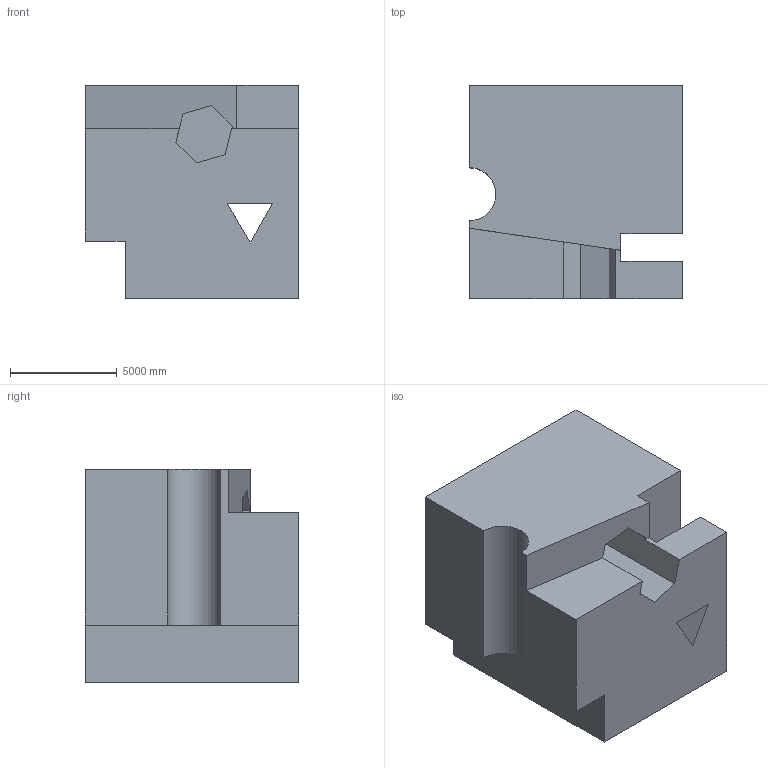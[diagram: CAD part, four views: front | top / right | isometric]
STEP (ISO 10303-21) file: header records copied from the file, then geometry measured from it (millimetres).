
FILE_DESCRIPTION (( 'STEP AP203' ), '1' );
FILE_NAME ('1591.STEP', '2022-08-18T16:00:39', ( 'user' ), ( '' ), 'SwSTEP 2.0', 'SolidWorks 2021', '' );
FILE_SCHEMA (( 'CONFIG_CONTROL_DESIGN' ));
Length unit declared in the file: centimetre
Products named in the file (1): 1591
Bounding box: 10000 x 10000 x 10000 mm (x, y, z)
Volume: 790087515078.1 mm3; surface area: 725979311.1 mm2
Topology: 1 solids, 1 shells, 29 faces, 87 edges, 58 vertices
Faces by surface type: plane 28, cylinder 1
Entity records: 1048 total; most frequent: CARTESIAN_POINT 175, ORIENTED_EDGE 174, DIRECTION 149, EDGE_CURVE 87, LINE 85, VECTOR 85, VERTEX_POINT 58, AXIS2_PLACEMENT_3D 32
